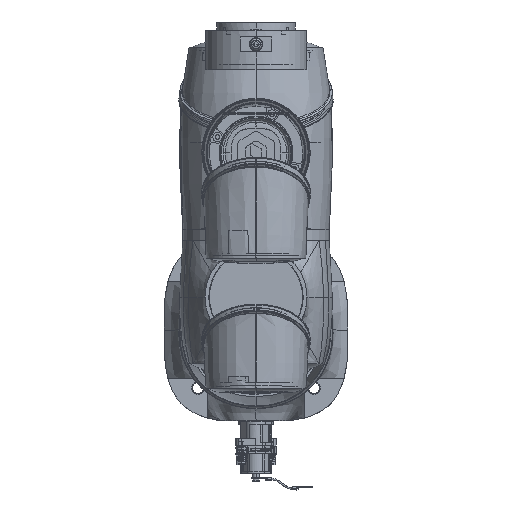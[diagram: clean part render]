
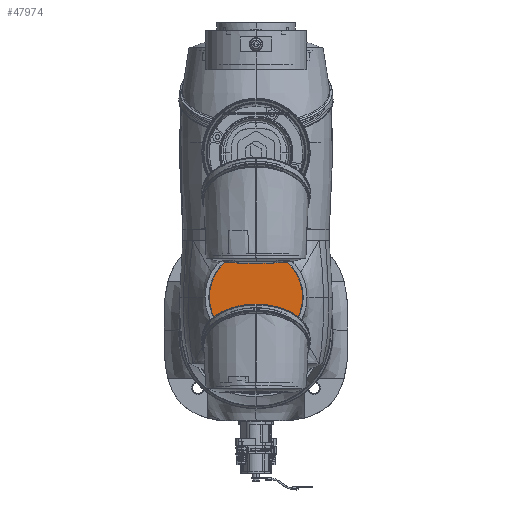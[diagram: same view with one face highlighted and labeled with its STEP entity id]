
A CAD part, top view. The second image highlights one B-rep face of the part: STEP entity #47974.
In plain terms, the highlighted planar face has unit normal (0, 0, 1) as drawn and (0, 0, -1) by its records, which use the part's own axes.
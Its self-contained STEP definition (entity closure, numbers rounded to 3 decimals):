
#47762=CARTESIAN_POINT('',(0.,0.,0.));
#47763=DIRECTION('',(0.,0.,1.));
#47764=DIRECTION('',(0.,1.,0.));
#47765=AXIS2_PLACEMENT_3D('',#47762,#47763,#47764);
#47767=CARTESIAN_POINT('',(0.,0.,0.));
#47768=DIRECTION('',(0.,0.,1.));
#47769=DIRECTION('',(0.,-1.,0.));
#47770=AXIS2_PLACEMENT_3D('',#47767,#47768,#47769);
#47790=CARTESIAN_POINT('',(0.,37.5,
0.));
#47791=VERTEX_POINT('',#47790);
#47792=CARTESIAN_POINT('',(0.,-37.5,0.));
#47793=VERTEX_POINT('',#47792);
#47965=CARTESIAN_POINT('',(0.,0.,0.));
#47966=DIRECTION('',(0.,0.,-1.));
#47967=DIRECTION('',(0.,-1.,0.));
#47968=AXIS2_PLACEMENT_3D('',#47965,#47966,#47967);
#47969=PLANE('',#47968);
#47970=ORIENTED_EDGE('',*,*,#47951,.T.);
#47971=ORIENTED_EDGE('',*,*,#47930,.T.);
#47972=EDGE_LOOP('',(#47970,#47971));
#47973=FACE_OUTER_BOUND('',#47972,.F.);
#47766=CIRCLE('',#47765,37.5);
#47771=CIRCLE('',#47770,37.5);
#47930=EDGE_CURVE('',#47793,#47791,#47771,.T.);
#47951=EDGE_CURVE('',#47791,#47793,#47766,.T.);
#47974=ADVANCED_FACE('',(#47973),#47969,.T.);
